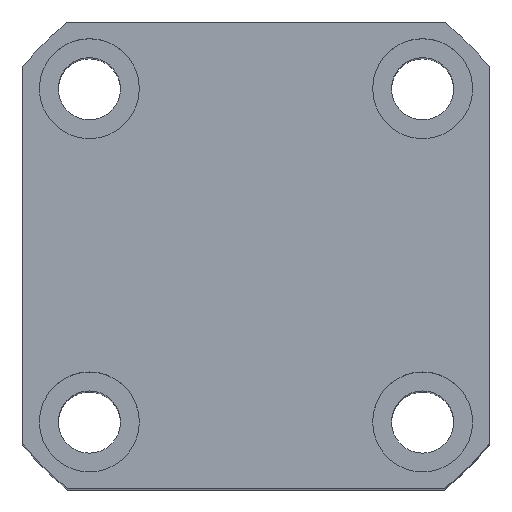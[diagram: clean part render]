
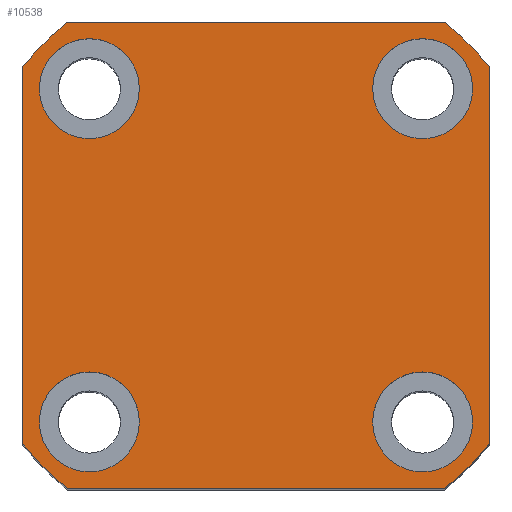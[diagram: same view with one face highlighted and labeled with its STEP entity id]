
A CAD part, top view. The second image highlights one B-rep face of the part: STEP entity #10538.
In plain terms, the highlighted planar face has unit normal (0, 0, 1).
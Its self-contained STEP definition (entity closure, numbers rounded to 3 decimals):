
#307 = DIRECTION ( 'NONE',  ( 1., 0., 0. ) ) ;
#454 = ORIENTED_EDGE ( 'NONE', *, *, #7254, .T. ) ;
#479 = CARTESIAN_POINT ( 'NONE',  ( 15., 15., 73. ) ) ;
#484 = AXIS2_PLACEMENT_3D ( 'NONE', #4071, #9825, #4912 ) ;
#485 = DIRECTION ( 'NONE',  ( 0., 0., 1. ) ) ;
#598 = VERTEX_POINT ( 'NONE', #4766 ) ;
#701 = CARTESIAN_POINT ( 'NONE',  ( -15., 15.002, 73. ) ) ;
#791 = ORIENTED_EDGE ( 'NONE', *, *, #10216, .F. ) ;
#1017 = DIRECTION ( 'NONE',  ( 0., 0., 1. ) ) ;
#1320 = DIRECTION ( 'NONE',  ( 1., 0., 0. ) ) ;
#1415 = AXIS2_PLACEMENT_3D ( 'NONE', #9461, #4552, #10291 ) ;
#1432 = ORIENTED_EDGE ( 'NONE', *, *, #5240, .T. ) ;
#1468 = EDGE_LOOP ( 'NONE', ( #8941, #1432, #454, #8156, #9204, #2038, #5553, #9983 ) ) ;
#1524 = DIRECTION ( 'NONE',  ( 1., 0., 0. ) ) ;
#1612 = AXIS2_PLACEMENT_3D ( 'NONE', #479, #6195, #1320 ) ;
#1792 = EDGE_CURVE ( 'NONE', #5719, #3817, #5013, .T. ) ;
#1836 = EDGE_CURVE ( 'NONE', #2141, #8458, #8856, .T. ) ;
#1906 = CARTESIAN_POINT ( 'NONE',  ( -19.5, -14.998, 73. ) ) ;
#2038 = ORIENTED_EDGE ( 'NONE', *, *, #2417, .T. ) ;
#2141 = VERTEX_POINT ( 'NONE', #3626 ) ;
#2146 = DIRECTION ( 'NONE',  ( 0., 0., 1. ) ) ;
#2148 = VECTOR ( 'NONE', #2184, 1000. ) ;
#2184 = DIRECTION ( 'NONE',  ( 1., 0., 0. ) ) ;
#2204 = CIRCLE ( 'NONE', #1415, 4.5 ) ;
#2253 = EDGE_CURVE ( 'NONE', #8458, #2141, #9496, .T. ) ;
#2295 = VECTOR ( 'NONE', #9170, 1000. ) ;
#2399 = EDGE_LOOP ( 'NONE', ( #4555, #4984 ) ) ;
#2417 = EDGE_CURVE ( 'NONE', #3817, #6999, #6551, .T. ) ;
#2448 = ORIENTED_EDGE ( 'NONE', *, *, #4361, .F. ) ;
#2465 = VERTEX_POINT ( 'NONE', #4956 ) ;
#2543 = LINE ( 'NONE', #10008, #2295 ) ;
#2603 = CARTESIAN_POINT ( 'NONE',  ( 0., 0., 73. ) ) ;
#2707 = CARTESIAN_POINT ( 'NONE',  ( 16.971, -21., 73. ) ) ;
#2747 = CIRCLE ( 'NONE', #4972, 27. ) ;
#2990 = DIRECTION ( 'NONE',  ( 0., 0., 1. ) ) ;
#3272 = CARTESIAN_POINT ( 'NONE',  ( 15., -14.998, 73. ) ) ;
#3283 = AXIS2_PLACEMENT_3D ( 'NONE', #5372, #485, #6200 ) ;
#3379 = DIRECTION ( 'NONE',  ( 0., 0., 1. ) ) ;
#3411 = DIRECTION ( 'NONE',  ( 1., 0., 0. ) ) ;
#3491 = AXIS2_PLACEMENT_3D ( 'NONE', #3272, #9014, #4093 ) ;
#3575 = CARTESIAN_POINT ( 'NONE',  ( 21., -16.971, 73. ) ) ;
#3617 = AXIS2_PLACEMENT_3D ( 'NONE', #7534, #3379, #3411 ) ;
#3626 = CARTESIAN_POINT ( 'NONE',  ( -10.5, 15.002, 73. ) ) ;
#3643 = VERTEX_POINT ( 'NONE', #1906 ) ;
#3664 = CARTESIAN_POINT ( 'NONE',  ( 10.5, 15., 73. ) ) ;
#3688 = VERTEX_POINT ( 'NONE', #3575 ) ;
#3746 = EDGE_CURVE ( 'NONE', #7058, #9540, #7812, .T. ) ;
#3817 = VERTEX_POINT ( 'NONE', #6009 ) ;
#3842 = DIRECTION ( 'NONE',  ( 0., -1., 0. ) ) ;
#4001 = VECTOR ( 'NONE', #9799, 1000. ) ;
#4071 = CARTESIAN_POINT ( 'NONE',  ( 0., 0., 73. ) ) ;
#4093 = DIRECTION ( 'NONE',  ( 1., 0., 0. ) ) ;
#4188 = VERTEX_POINT ( 'NONE', #7623 ) ;
#4226 = FACE_OUTER_BOUND ( 'NONE', #1468, .T. ) ;
#4241 = PLANE ( 'NONE',  #9547 ) ;
#4297 = EDGE_CURVE ( 'NONE', #9540, #7058, #7390, .T. ) ;
#4340 = EDGE_LOOP ( 'NONE', ( #791, #8889 ) ) ;
#4361 = EDGE_CURVE ( 'NONE', #8704, #3643, #7132, .T. ) ;
#4473 = CARTESIAN_POINT ( 'NONE',  ( 15., 15., 73. ) ) ;
#4494 = ORIENTED_EDGE ( 'NONE', *, *, #10136, .F. ) ;
#4498 = FACE_BOUND ( 'NONE', #4340, .T. ) ;
#4510 = CARTESIAN_POINT ( 'NONE',  ( -15., -14.998, 73. ) ) ;
#4552 = DIRECTION ( 'NONE',  ( 0., 0., 1. ) ) ;
#4555 = ORIENTED_EDGE ( 'NONE', *, *, #3746, .F. ) ;
#4766 = CARTESIAN_POINT ( 'NONE',  ( 21., 16.971, 73. ) ) ;
#4789 = EDGE_LOOP ( 'NONE', ( #2448, #4494 ) ) ;
#4835 = ORIENTED_EDGE ( 'NONE', *, *, #1836, .F. ) ;
#4912 = DIRECTION ( 'NONE',  ( 1., 0., 0. ) ) ;
#4956 = CARTESIAN_POINT ( 'NONE',  ( 19.5, -14.998, 73. ) ) ;
#4972 = AXIS2_PLACEMENT_3D ( 'NONE', #10120, #5210, #307 ) ;
#4984 = ORIENTED_EDGE ( 'NONE', *, *, #4297, .F. ) ;
#5013 = LINE ( 'NONE', #8777, #6955 ) ;
#5040 = AXIS2_PLACEMENT_3D ( 'NONE', #4473, #10214, #5306 ) ;
#5210 = DIRECTION ( 'NONE',  ( 0., 0., 1. ) ) ;
#5240 = EDGE_CURVE ( 'NONE', #598, #6769, #10321, .T. ) ;
#5273 = CIRCLE ( 'NONE', #3491, 4.5 ) ;
#5306 = DIRECTION ( 'NONE',  ( 1., 0., 0. ) ) ;
#5338 = DIRECTION ( 'NONE',  ( 1., 0., 0. ) ) ;
#5372 = CARTESIAN_POINT ( 'NONE',  ( 0., 0., 73. ) ) ;
#5403 = CARTESIAN_POINT ( 'NONE',  ( -21., -21., 73. ) ) ;
#5508 = EDGE_CURVE ( 'NONE', #6845, #3688, #2747, .T. ) ;
#5553 = ORIENTED_EDGE ( 'NONE', *, *, #9626, .T. ) ;
#5572 = AXIS2_PLACEMENT_3D ( 'NONE', #4510, #10251, #5338 ) ;
#5719 = VERTEX_POINT ( 'NONE', #9569 ) ;
#5997 = CIRCLE ( 'NONE', #3283, 27. ) ;
#6009 = CARTESIAN_POINT ( 'NONE',  ( -21., -16.971, 73. ) ) ;
#6169 = EDGE_CURVE ( 'NONE', #3688, #598, #8405, .T. ) ;
#6195 = DIRECTION ( 'NONE',  ( 0., 0., 1. ) ) ;
#6200 = DIRECTION ( 'NONE',  ( 1., 0., 0. ) ) ;
#6292 = CIRCLE ( 'NONE', #7019, 4.5 ) ;
#6416 = FACE_BOUND ( 'NONE', #4789, .T. ) ;
#6422 = DIRECTION ( 'NONE',  ( 0., 0., 1. ) ) ;
#6551 = CIRCLE ( 'NONE', #484, 27. ) ;
#6731 = DIRECTION ( 'NONE',  ( 1., 0., 0. ) ) ;
#6769 = VERTEX_POINT ( 'NONE', #10420 ) ;
#6845 = VERTEX_POINT ( 'NONE', #2707 ) ;
#6955 = VECTOR ( 'NONE', #3842, 1000. ) ;
#6999 = VERTEX_POINT ( 'NONE', #8665 ) ;
#7019 = AXIS2_PLACEMENT_3D ( 'NONE', #7954, #2990, #8755 ) ;
#7058 = VERTEX_POINT ( 'NONE', #7149 ) ;
#7059 = CARTESIAN_POINT ( 'NONE',  ( 0., 0., 73. ) ) ;
#7132 = CIRCLE ( 'NONE', #5572, 4.5 ) ;
#7149 = CARTESIAN_POINT ( 'NONE',  ( 19.5, 15., 73. ) ) ;
#7254 = EDGE_CURVE ( 'NONE', #6769, #9234, #2543, .T. ) ;
#7390 = CIRCLE ( 'NONE', #5040, 4.5 ) ;
#7534 = CARTESIAN_POINT ( 'NONE',  ( -15., 15.002, 73. ) ) ;
#7623 = CARTESIAN_POINT ( 'NONE',  ( 10.5, -14.998, 73. ) ) ;
#7812 = CIRCLE ( 'NONE', #1612, 4.5 ) ;
#7851 = AXIS2_PLACEMENT_3D ( 'NONE', #701, #6422, #1524 ) ;
#7904 = DIRECTION ( 'NONE',  ( 1., 0., 0. ) ) ;
#7954 = CARTESIAN_POINT ( 'NONE',  ( 15., -14.998, 73. ) ) ;
#8156 = ORIENTED_EDGE ( 'NONE', *, *, #8868, .T. ) ;
#8405 = LINE ( 'NONE', #8975, #4001 ) ;
#8458 = VERTEX_POINT ( 'NONE', #8728 ) ;
#8619 = FACE_BOUND ( 'NONE', #2399, .T. ) ;
#8665 = CARTESIAN_POINT ( 'NONE',  ( -16.971, -21., 73. ) ) ;
#8693 = LINE ( 'NONE', #5403, #2148 ) ;
#8704 = VERTEX_POINT ( 'NONE', #10038 ) ;
#8728 = CARTESIAN_POINT ( 'NONE',  ( -19.5, 15.002, 73. ) ) ;
#8755 = DIRECTION ( 'NONE',  ( 1., 0., 0. ) ) ;
#8777 = CARTESIAN_POINT ( 'NONE',  ( -21., 21., 73. ) ) ;
#8856 = CIRCLE ( 'NONE', #3617, 4.5 ) ;
#8868 = EDGE_CURVE ( 'NONE', #9234, #5719, #5997, .T. ) ;
#8889 = ORIENTED_EDGE ( 'NONE', *, *, #10458, .F. ) ;
#8941 = ORIENTED_EDGE ( 'NONE', *, *, #6169, .T. ) ;
#8975 = CARTESIAN_POINT ( 'NONE',  ( 21., 21., 73. ) ) ;
#9014 = DIRECTION ( 'NONE',  ( 0., 0., 1. ) ) ;
#9108 = FACE_BOUND ( 'NONE', #9266, .T. ) ;
#9170 = DIRECTION ( 'NONE',  ( -1., 0., 0. ) ) ;
#9204 = ORIENTED_EDGE ( 'NONE', *, *, #1792, .T. ) ;
#9234 = VERTEX_POINT ( 'NONE', #10620 ) ;
#9266 = EDGE_LOOP ( 'NONE', ( #4835, #10608 ) ) ;
#9461 = CARTESIAN_POINT ( 'NONE',  ( -15., -14.998, 73. ) ) ;
#9496 = CIRCLE ( 'NONE', #7851, 4.5 ) ;
#9540 = VERTEX_POINT ( 'NONE', #3664 ) ;
#9547 = AXIS2_PLACEMENT_3D ( 'NONE', #2603, #1017, #6731 ) ;
#9567 = AXIS2_PLACEMENT_3D ( 'NONE', #7059, #2146, #7904 ) ;
#9569 = CARTESIAN_POINT ( 'NONE',  ( -21., 16.971, 73. ) ) ;
#9626 = EDGE_CURVE ( 'NONE', #6999, #6845, #8693, .T. ) ;
#9799 = DIRECTION ( 'NONE',  ( 0., 1., 0. ) ) ;
#9825 = DIRECTION ( 'NONE',  ( 0., 0., 1. ) ) ;
#9983 = ORIENTED_EDGE ( 'NONE', *, *, #5508, .T. ) ;
#10008 = CARTESIAN_POINT ( 'NONE',  ( -21., 21., 73. ) ) ;
#10038 = CARTESIAN_POINT ( 'NONE',  ( -10.5, -14.998, 73. ) ) ;
#10120 = CARTESIAN_POINT ( 'NONE',  ( 0., 0., 73. ) ) ;
#10136 = EDGE_CURVE ( 'NONE', #3643, #8704, #2204, .T. ) ;
#10214 = DIRECTION ( 'NONE',  ( 0., 0., 1. ) ) ;
#10216 = EDGE_CURVE ( 'NONE', #2465, #4188, #6292, .T. ) ;
#10251 = DIRECTION ( 'NONE',  ( 0., 0., 1. ) ) ;
#10291 = DIRECTION ( 'NONE',  ( 1., 0., 0. ) ) ;
#10321 = CIRCLE ( 'NONE', #9567, 27. ) ;
#10420 = CARTESIAN_POINT ( 'NONE',  ( 16.971, 21., 73. ) ) ;
#10458 = EDGE_CURVE ( 'NONE', #4188, #2465, #5273, .T. ) ;
#10538 = ADVANCED_FACE ( 'NONE', ( #9108, #6416, #4498, #8619, #4226 ), #4241, .T. ) ;
#10608 = ORIENTED_EDGE ( 'NONE', *, *, #2253, .F. ) ;
#10620 = CARTESIAN_POINT ( 'NONE',  ( -16.971, 21., 73. ) ) ;
